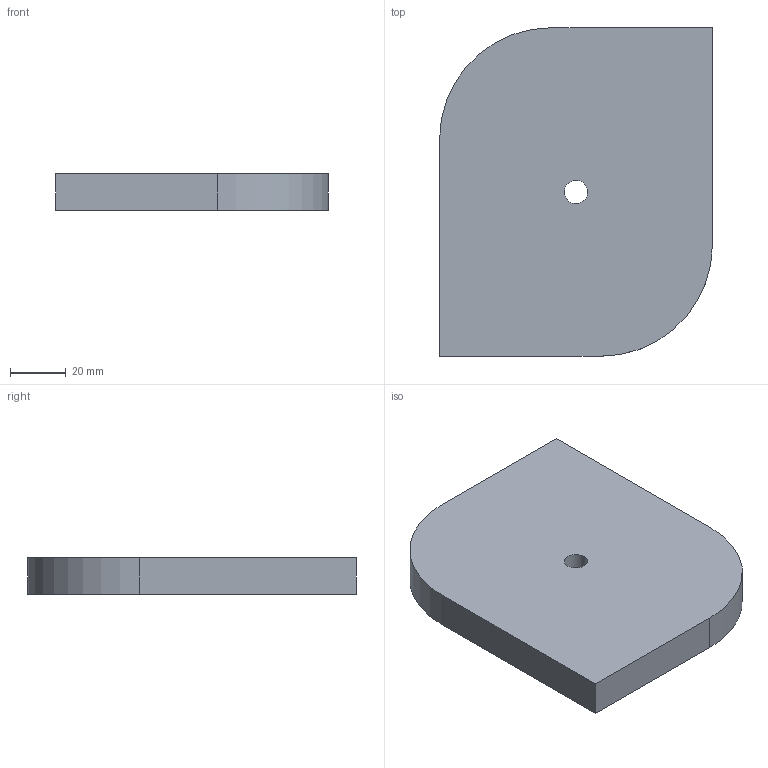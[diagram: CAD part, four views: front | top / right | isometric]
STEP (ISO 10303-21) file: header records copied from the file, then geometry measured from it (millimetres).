
FILE_DESCRIPTION(('CATIA V5 STEP Exchange'),'2;1');
FILE_NAME('C:\_Andres\UNIVERSIDAD\IQS\ASIGNATURAS\DAO\EXF\EXF-15161c\1original\Forés_Garriga_Ej01-plano_v8.stp','2016-03-04T14:59:44+00:00',('none'),('none'),'CATIA Version 5 Release 20 SP 1 (IN-10)','CATIA V5 STEP AP203','none');
FILE_SCHEMA(('CONFIG_CONTROL_DESIGN'));
Length unit declared in the file: millimetre
Products named in the file (1): Forés_Garriga_Ej01-plano_v8
Bounding box: 98 x 118 x 13 mm (x, y, z)
Volume: 140688.2 mm3; surface area: 27156.1 mm2
Topology: 1 solids, 1 shells, 10 faces, 24 edges, 16 vertices
Faces by surface type: plane 6, cylinder 4
Entity records: 333 total; most frequent: CARTESIAN_POINT 51, ORIENTED_EDGE 48, DIRECTION 44, EDGE_CURVE 24, AXIS2_PLACEMENT_3D 19, VECTOR 16, LINE 16, VERTEX_POINT 16
